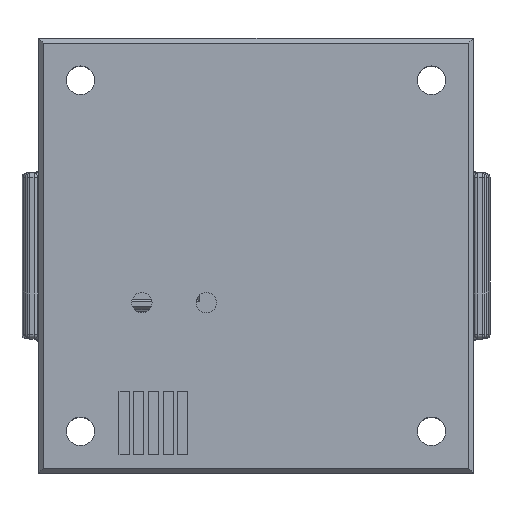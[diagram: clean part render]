
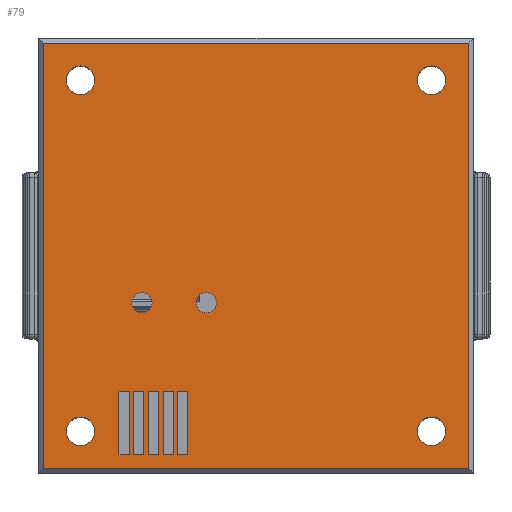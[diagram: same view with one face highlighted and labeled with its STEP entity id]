
A CAD part, top view. The second image highlights one B-rep face of the part: STEP entity #79.
In plain terms, the highlighted planar face has unit normal (0, 0, 1).
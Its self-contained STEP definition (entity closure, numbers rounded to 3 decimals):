
#43 = EDGE_CURVE('',#44,#46,#48,.T.);
#44 = VERTEX_POINT('',#45);
#45 = CARTESIAN_POINT('',(-21.5,-0.32,9.97));
#46 = VERTEX_POINT('',#47);
#47 = CARTESIAN_POINT('',(24.68,-0.32,9.97));
#48 = LINE('',#49,#50);
#49 = CARTESIAN_POINT('',(13.385,-0.32,9.97));
#50 = VECTOR('',#51,1.);
#51 = DIRECTION('',(1.,0.,0.));
#79 = ADVANCED_FACE('',(#80,#105,#116,#150,#184,#195,#229,#263,#297,#308
    ,#319,#330),#341,.T.);
#80 = FACE_BOUND('',#81,.T.);
#81 = EDGE_LOOP('',(#82,#83,#91,#99));
#82 = ORIENTED_EDGE('',*,*,#43,.F.);
#83 = ORIENTED_EDGE('',*,*,#84,.F.);
#84 = EDGE_CURVE('',#85,#44,#87,.T.);
#85 = VERTEX_POINT('',#86);
#86 = CARTESIAN_POINT('',(-21.5,-46.5,9.97));
#87 = LINE('',#88,#89);
#88 = CARTESIAN_POINT('',(-21.5,-11.615,9.97));
#89 = VECTOR('',#90,1.);
#90 = DIRECTION('',(0.,1.,0.));
#91 = ORIENTED_EDGE('',*,*,#92,.F.);
#92 = EDGE_CURVE('',#93,#85,#95,.T.);
#93 = VERTEX_POINT('',#94);
#94 = CARTESIAN_POINT('',(24.68,-46.5,9.97));
#95 = LINE('',#96,#97);
#96 = CARTESIAN_POINT('',(-10.205,-46.5,9.97));
#97 = VECTOR('',#98,1.);
#98 = DIRECTION('',(-1.,0.,0.));
#99 = ORIENTED_EDGE('',*,*,#100,.F.);
#100 = EDGE_CURVE('',#46,#93,#101,.T.);
#101 = LINE('',#102,#103);
#102 = CARTESIAN_POINT('',(24.68,-35.205,9.97));
#103 = VECTOR('',#104,1.);
#104 = DIRECTION('',(0.,-1.,0.));
#105 = FACE_BOUND('',#106,.T.);
#106 = EDGE_LOOP('',(#107));
#107 = ORIENTED_EDGE('',*,*,#108,.T.);
#108 = EDGE_CURVE('',#109,#109,#111,.T.);
#109 = VERTEX_POINT('',#110);
#110 = CARTESIAN_POINT('',(-9.693,-28.49,9.97));
#111 = CIRCLE('',#112,1.1);
#112 = AXIS2_PLACEMENT_3D('',#113,#114,#115);
#113 = CARTESIAN_POINT('',(-10.793,-28.49,9.97));
#114 = DIRECTION('',(0.,0.,-1.));
#115 = DIRECTION('',(-1.,0.,0.));
#116 = FACE_BOUND('',#117,.T.);
#117 = EDGE_LOOP('',(#118,#128,#136,#144));
#118 = ORIENTED_EDGE('',*,*,#119,.T.);
#119 = EDGE_CURVE('',#120,#122,#124,.T.);
#120 = VERTEX_POINT('',#121);
#121 = CARTESIAN_POINT('',(-10.076,-38.161,9.97));
#122 = VERTEX_POINT('',#123);
#123 = CARTESIAN_POINT('',(-8.988,-38.161,9.97));
#124 = LINE('',#125,#126);
#125 = CARTESIAN_POINT('',(-3.699,-38.161,9.97));
#126 = VECTOR('',#127,1.);
#127 = DIRECTION('',(1.,0.,0.));
#128 = ORIENTED_EDGE('',*,*,#129,.T.);
#129 = EDGE_CURVE('',#122,#130,#132,.T.);
#130 = VERTEX_POINT('',#131);
#131 = CARTESIAN_POINT('',(-8.988,-45.,9.97));
#132 = LINE('',#133,#134);
#133 = CARTESIAN_POINT('',(-8.988,-34.205,9.97));
#134 = VECTOR('',#135,1.);
#135 = DIRECTION('',(0.,-1.,0.));
#136 = ORIENTED_EDGE('',*,*,#137,.T.);
#137 = EDGE_CURVE('',#130,#138,#140,.T.);
#138 = VERTEX_POINT('',#139);
#139 = CARTESIAN_POINT('',(-10.076,-45.,9.97));
#140 = LINE('',#141,#142);
#141 = CARTESIAN_POINT('',(-4.243,-45.,9.97));
#142 = VECTOR('',#143,1.);
#143 = DIRECTION('',(-1.,0.,0.));
#144 = ORIENTED_EDGE('',*,*,#145,.T.);
#145 = EDGE_CURVE('',#138,#120,#146,.T.);
#146 = LINE('',#147,#148);
#147 = CARTESIAN_POINT('',(-10.076,-30.785,9.97));
#148 = VECTOR('',#149,1.);
#149 = DIRECTION('',(0.,1.,0.));
#150 = FACE_BOUND('',#151,.T.);
#151 = EDGE_LOOP('',(#152,#162,#170,#178));
#152 = ORIENTED_EDGE('',*,*,#153,.T.);
#153 = EDGE_CURVE('',#154,#156,#158,.T.);
#154 = VERTEX_POINT('',#155);
#155 = CARTESIAN_POINT('',(-6.901,-38.161,9.97));
#156 = VERTEX_POINT('',#157);
#157 = CARTESIAN_POINT('',(-5.813,-38.161,9.97));
#158 = LINE('',#159,#160);
#159 = CARTESIAN_POINT('',(-2.112,-38.161,9.97));
#160 = VECTOR('',#161,1.);
#161 = DIRECTION('',(1.,0.,0.));
#162 = ORIENTED_EDGE('',*,*,#163,.T.);
#163 = EDGE_CURVE('',#156,#164,#166,.T.);
#164 = VERTEX_POINT('',#165);
#165 = CARTESIAN_POINT('',(-5.813,-45.,9.97));
#166 = LINE('',#167,#168);
#167 = CARTESIAN_POINT('',(-5.813,-34.205,9.97));
#168 = VECTOR('',#169,1.);
#169 = DIRECTION('',(0.,-1.,0.));
#170 = ORIENTED_EDGE('',*,*,#171,.T.);
#171 = EDGE_CURVE('',#164,#172,#174,.T.);
#172 = VERTEX_POINT('',#173);
#173 = CARTESIAN_POINT('',(-6.901,-45.,9.97));
#174 = LINE('',#175,#176);
#175 = CARTESIAN_POINT('',(-2.655,-45.,9.97));
#176 = VECTOR('',#177,1.);
#177 = DIRECTION('',(-1.,0.,0.));
#178 = ORIENTED_EDGE('',*,*,#179,.T.);
#179 = EDGE_CURVE('',#172,#154,#180,.T.);
#180 = LINE('',#181,#182);
#181 = CARTESIAN_POINT('',(-6.901,-30.785,9.97));
#182 = VECTOR('',#183,1.);
#183 = DIRECTION('',(0.,1.,0.));
#184 = FACE_BOUND('',#185,.T.);
#185 = EDGE_LOOP('',(#186));
#186 = ORIENTED_EDGE('',*,*,#187,.T.);
#187 = EDGE_CURVE('',#188,#188,#190,.T.);
#188 = VERTEX_POINT('',#189);
#189 = CARTESIAN_POINT('',(-2.708,-28.49,9.97));
#190 = CIRCLE('',#191,1.1);
#191 = AXIS2_PLACEMENT_3D('',#192,#193,#194);
#192 = CARTESIAN_POINT('',(-3.808,-28.49,9.97));
#193 = DIRECTION('',(0.,0.,-1.));
#194 = DIRECTION('',(-1.,0.,0.));
#195 = FACE_BOUND('',#196,.T.);
#196 = EDGE_LOOP('',(#197,#207,#215,#223));
#197 = ORIENTED_EDGE('',*,*,#198,.T.);
#198 = EDGE_CURVE('',#199,#201,#203,.T.);
#199 = VERTEX_POINT('',#200);
#200 = CARTESIAN_POINT('',(-8.488,-38.161,9.97));
#201 = VERTEX_POINT('',#202);
#202 = CARTESIAN_POINT('',(-7.401,-38.161,9.97));
#203 = LINE('',#204,#205);
#204 = CARTESIAN_POINT('',(-2.905,-38.161,9.97));
#205 = VECTOR('',#206,1.);
#206 = DIRECTION('',(1.,0.,0.));
#207 = ORIENTED_EDGE('',*,*,#208,.T.);
#208 = EDGE_CURVE('',#201,#209,#211,.T.);
#209 = VERTEX_POINT('',#210);
#210 = CARTESIAN_POINT('',(-7.401,-45.,9.97));
#211 = LINE('',#212,#213);
#212 = CARTESIAN_POINT('',(-7.401,-34.205,9.97));
#213 = VECTOR('',#214,1.);
#214 = DIRECTION('',(0.,-1.,0.));
#215 = ORIENTED_EDGE('',*,*,#216,.T.);
#216 = EDGE_CURVE('',#209,#217,#219,.T.);
#217 = VERTEX_POINT('',#218);
#218 = CARTESIAN_POINT('',(-8.488,-45.,9.97));
#219 = LINE('',#220,#221);
#220 = CARTESIAN_POINT('',(-3.449,-45.,9.97));
#221 = VECTOR('',#222,1.);
#222 = DIRECTION('',(-1.,0.,0.));
#223 = ORIENTED_EDGE('',*,*,#224,.T.);
#224 = EDGE_CURVE('',#217,#199,#225,.T.);
#225 = LINE('',#226,#227);
#226 = CARTESIAN_POINT('',(-8.488,-30.785,9.97));
#227 = VECTOR('',#228,1.);
#228 = DIRECTION('',(0.,1.,0.));
#229 = FACE_BOUND('',#230,.T.);
#230 = EDGE_LOOP('',(#231,#241,#249,#257));
#231 = ORIENTED_EDGE('',*,*,#232,.T.);
#232 = EDGE_CURVE('',#233,#235,#237,.T.);
#233 = VERTEX_POINT('',#234);
#234 = CARTESIAN_POINT('',(-11.663,-38.161,9.97));
#235 = VERTEX_POINT('',#236);
#236 = CARTESIAN_POINT('',(-10.576,-38.161,9.97));
#237 = LINE('',#238,#239);
#238 = CARTESIAN_POINT('',(-4.493,-38.161,9.97));
#239 = VECTOR('',#240,1.);
#240 = DIRECTION('',(1.,0.,0.));
#241 = ORIENTED_EDGE('',*,*,#242,.T.);
#242 = EDGE_CURVE('',#235,#243,#245,.T.);
#243 = VERTEX_POINT('',#244);
#244 = CARTESIAN_POINT('',(-10.576,-45.,9.97));
#245 = LINE('',#246,#247);
#246 = CARTESIAN_POINT('',(-10.576,-34.205,9.97));
#247 = VECTOR('',#248,1.);
#248 = DIRECTION('',(0.,-1.,0.));
#249 = ORIENTED_EDGE('',*,*,#250,.T.);
#250 = EDGE_CURVE('',#243,#251,#253,.T.);
#251 = VERTEX_POINT('',#252);
#252 = CARTESIAN_POINT('',(-11.663,-45.,9.97));
#253 = LINE('',#254,#255);
#254 = CARTESIAN_POINT('',(-5.037,-45.,9.97));
#255 = VECTOR('',#256,1.);
#256 = DIRECTION('',(-1.,0.,0.));
#257 = ORIENTED_EDGE('',*,*,#258,.T.);
#258 = EDGE_CURVE('',#251,#233,#259,.T.);
#259 = LINE('',#260,#261);
#260 = CARTESIAN_POINT('',(-11.663,-30.785,9.97));
#261 = VECTOR('',#262,1.);
#262 = DIRECTION('',(0.,1.,0.));
#263 = FACE_BOUND('',#264,.T.);
#264 = EDGE_LOOP('',(#265,#275,#283,#291));
#265 = ORIENTED_EDGE('',*,*,#266,.T.);
#266 = EDGE_CURVE('',#267,#269,#271,.T.);
#267 = VERTEX_POINT('',#268);
#268 = CARTESIAN_POINT('',(-13.28,-45.,9.97));
#269 = VERTEX_POINT('',#270);
#270 = CARTESIAN_POINT('',(-13.28,-38.161,9.97));
#271 = LINE('',#272,#273);
#272 = CARTESIAN_POINT('',(-13.28,-30.785,9.97));
#273 = VECTOR('',#274,1.);
#274 = DIRECTION('',(0.,1.,0.));
#275 = ORIENTED_EDGE('',*,*,#276,.T.);
#276 = EDGE_CURVE('',#269,#277,#279,.T.);
#277 = VERTEX_POINT('',#278);
#278 = CARTESIAN_POINT('',(-12.163,-38.161,9.97));
#279 = LINE('',#280,#281);
#280 = CARTESIAN_POINT('',(-5.287,-38.161,9.97));
#281 = VECTOR('',#282,1.);
#282 = DIRECTION('',(1.,0.,0.));
#283 = ORIENTED_EDGE('',*,*,#284,.T.);
#284 = EDGE_CURVE('',#277,#285,#287,.T.);
#285 = VERTEX_POINT('',#286);
#286 = CARTESIAN_POINT('',(-12.163,-45.,9.97));
#287 = LINE('',#288,#289);
#288 = CARTESIAN_POINT('',(-12.163,-34.205,9.97));
#289 = VECTOR('',#290,1.);
#290 = DIRECTION('',(0.,-1.,0.));
#291 = ORIENTED_EDGE('',*,*,#292,.T.);
#292 = EDGE_CURVE('',#285,#267,#293,.T.);
#293 = LINE('',#294,#295);
#294 = CARTESIAN_POINT('',(-5.845,-45.,9.97));
#295 = VECTOR('',#296,1.);
#296 = DIRECTION('',(-1.,0.,0.));
#297 = FACE_BOUND('',#298,.T.);
#298 = EDGE_LOOP('',(#299));
#299 = ORIENTED_EDGE('',*,*,#300,.T.);
#300 = EDGE_CURVE('',#301,#301,#303,.T.);
#301 = VERTEX_POINT('',#302);
#302 = CARTESIAN_POINT('',(22.19,-4.36,9.97));
#303 = CIRCLE('',#304,1.55);
#304 = AXIS2_PLACEMENT_3D('',#305,#306,#307);
#305 = CARTESIAN_POINT('',(20.64,-4.36,9.97));
#306 = DIRECTION('',(0.,0.,-1.));
#307 = DIRECTION('',(-1.,0.,0.));
#308 = FACE_BOUND('',#309,.T.);
#309 = EDGE_LOOP('',(#310));
#310 = ORIENTED_EDGE('',*,*,#311,.T.);
#311 = EDGE_CURVE('',#312,#312,#314,.T.);
#312 = VERTEX_POINT('',#313);
#313 = CARTESIAN_POINT('',(-15.91,-42.46,9.97));
#314 = CIRCLE('',#315,1.55);
#315 = AXIS2_PLACEMENT_3D('',#316,#317,#318);
#316 = CARTESIAN_POINT('',(-17.46,-42.46,9.97));
#317 = DIRECTION('',(0.,0.,-1.));
#318 = DIRECTION('',(-1.,0.,0.));
#319 = FACE_BOUND('',#320,.T.);
#320 = EDGE_LOOP('',(#321));
#321 = ORIENTED_EDGE('',*,*,#322,.T.);
#322 = EDGE_CURVE('',#323,#323,#325,.T.);
#323 = VERTEX_POINT('',#324);
#324 = CARTESIAN_POINT('',(22.19,-42.46,9.97));
#325 = CIRCLE('',#326,1.55);
#326 = AXIS2_PLACEMENT_3D('',#327,#328,#329);
#327 = CARTESIAN_POINT('',(20.64,-42.46,9.97));
#328 = DIRECTION('',(0.,0.,-1.));
#329 = DIRECTION('',(-1.,0.,0.));
#330 = FACE_BOUND('',#331,.T.);
#331 = EDGE_LOOP('',(#332));
#332 = ORIENTED_EDGE('',*,*,#333,.T.);
#333 = EDGE_CURVE('',#334,#334,#336,.T.);
#334 = VERTEX_POINT('',#335);
#335 = CARTESIAN_POINT('',(-15.91,-4.36,9.97));
#336 = CIRCLE('',#337,1.55);
#337 = AXIS2_PLACEMENT_3D('',#338,#339,#340);
#338 = CARTESIAN_POINT('',(-17.46,-4.36,9.97));
#339 = DIRECTION('',(0.,0.,-1.));
#340 = DIRECTION('',(-1.,0.,0.));
#341 = PLANE('',#342);
#342 = AXIS2_PLACEMENT_3D('',#343,#344,#345);
#343 = CARTESIAN_POINT('',(1.59,-23.41,9.97));
#344 = DIRECTION('',(0.,0.,1.));
#345 = DIRECTION('',(1.,0.,0.));
